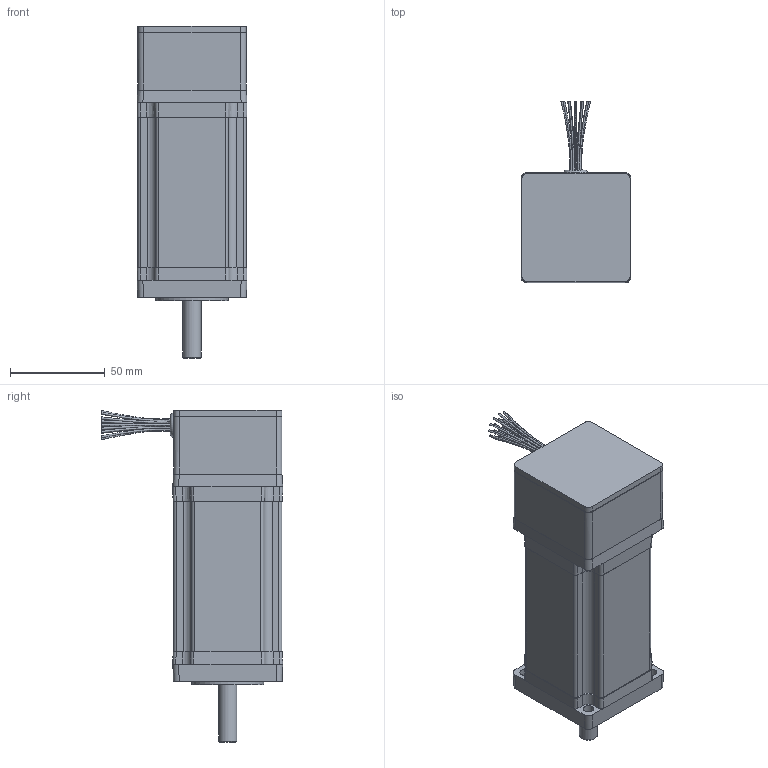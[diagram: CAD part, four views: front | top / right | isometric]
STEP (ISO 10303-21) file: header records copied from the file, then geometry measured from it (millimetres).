
FILE_DESCRIPTION((''),'2;1');
FILE_NAME('C:\CAD_work\Dummy_Modeling_Project_02-12-05\3D MODELS\BE233_FL.stp','2005-12-20T15:25:31',('jevans'),(''),'Autodesk Inventor 10','Autodesk Inventor 10','');
FILE_SCHEMA(('AUTOMOTIVE_DESIGN { 1 0 10303 214 1 1 1 1 }'));
Length unit declared in the file: inch
Products named in the file (1): BE23_FL
Bounding box: 57.95 x 95.65 x 175.16 mm (x, y, z)
Volume: 433817.1 mm3; surface area: 47623.8 mm2
Topology: 3 solids, 3 shells, 255 faces, 601 edges, 384 vertices
Faces by surface type: plane 139, cylinder 80, bspline 24, cone 8, torus 4
Full cylindrical faces by diameter (mm): 1.27 x2, 6.985 x1, 9.52 x1, 9.525 x1, 12.7 x1, 21.59 x1, 24.13 x1, 25.403 x1, 26 x1, 27.076 x1, 31.75 x3, 38.1 x1, 41.732 x1, 47.015 x1
Entity records: 9299 total; most frequent: CARTESIAN_POINT 3510, DIRECTION 1222, ORIENTED_EDGE 1118, EDGE_CURVE 559, AXIS2_PLACEMENT_3D 467, VERTEX_POINT 373, EDGE_LOOP 332, VECTOR 288
